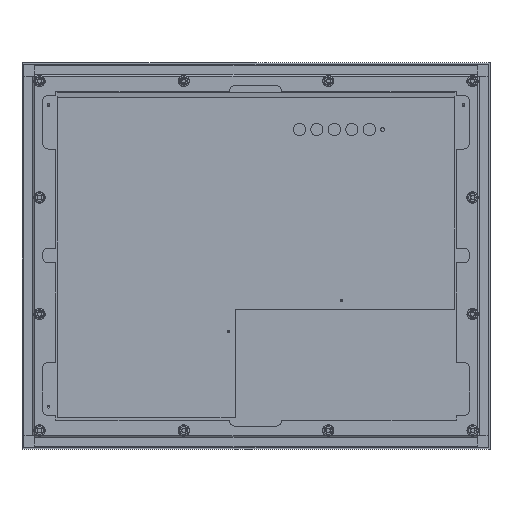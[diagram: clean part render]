
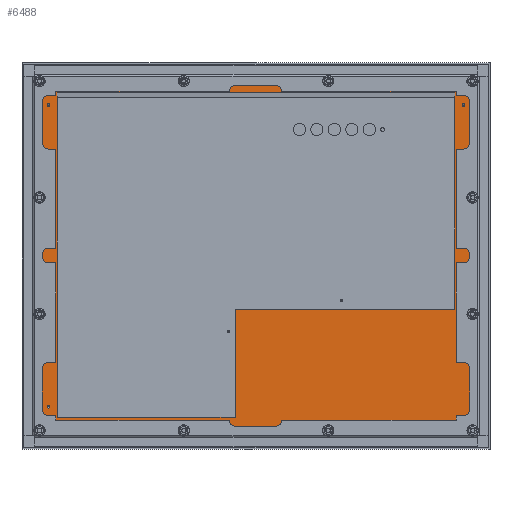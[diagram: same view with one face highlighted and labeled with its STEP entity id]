
A CAD part, top view. The second image highlights one B-rep face of the part: STEP entity #6488.
In plain terms, the highlighted planar face has unit normal (0, 0, 1).
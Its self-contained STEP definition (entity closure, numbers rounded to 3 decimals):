
#1 = VECTOR ( 'NONE', #10787, 1000. ) ;
#123 = VECTOR ( 'NONE', #11717, 1000. ) ;
#238 = DIRECTION ( 'NONE',  ( 1., 0., 0. ) ) ;
#431 = LINE ( 'NONE', #667, #123 ) ;
#436 = CIRCLE ( 'NONE', #9413, 1.353 ) ;
#518 = DIRECTION ( 'NONE',  ( 1., 0., 0. ) ) ;
#667 = CARTESIAN_POINT ( 'NONE',  ( -214.405, -177.688, 24.562 ) ) ;
#889 = DIRECTION ( 'NONE',  ( 1., 0., 0. ) ) ;
#1029 = EDGE_LOOP ( 'NONE', ( #10040, #5486, #11594, #1262, #6960, #4420, #11375, #7985 ) ) ;
#1042 = DIRECTION ( 'NONE',  ( -0.707, -0.707, 0. ) ) ;
#1262 = ORIENTED_EDGE ( 'NONE', *, *, #2586, .T. ) ;
#1320 = EDGE_CURVE ( 'NONE', #4440, #2965, #436, .T. ) ;
#1324 = CARTESIAN_POINT ( 'NONE',  ( -214.405, 177.688, 24.562 ) ) ;
#1632 = DIRECTION ( 'NONE',  ( -0.707, 0.707, 0. ) ) ;
#1703 = VERTEX_POINT ( 'NONE', #2201 ) ;
#1903 = CIRCLE ( 'NONE', #10572, 1.353 ) ;
#2136 = CARTESIAN_POINT ( 'NONE',  ( -214.405, 177.688, 24.562 ) ) ;
#2201 = CARTESIAN_POINT ( 'NONE',  ( -214.405, -177.688, 24.562 ) ) ;
#2216 = CIRCLE ( 'NONE', #4706, 1.353 ) ;
#2241 = EDGE_LOOP ( 'NONE', ( #2561, #2911 ) ) ;
#2258 = DIRECTION ( 'NONE',  ( 0., 0., 1. ) ) ;
#2497 = DIRECTION ( 'NONE',  ( 0., 0., 1. ) ) ;
#2536 = VERTEX_POINT ( 'NONE', #6979 ) ;
#2557 = VERTEX_POINT ( 'NONE', #7014 ) ;
#2561 = ORIENTED_EDGE ( 'NONE', *, *, #9001, .F. ) ;
#2586 = EDGE_CURVE ( 'NONE', #5446, #2557, #4604, .T. ) ;
#2594 = EDGE_CURVE ( 'NONE', #2965, #4440, #11949, .T. ) ;
#2813 = CARTESIAN_POINT ( 'NONE',  ( -213.995, 155.575, 24.562 ) ) ;
#2911 = ORIENTED_EDGE ( 'NONE', *, *, #7497, .F. ) ;
#2912 = LINE ( 'NONE', #2136, #7531 ) ;
#2962 = CARTESIAN_POINT ( 'NONE',  ( -220.817, -171.276, 24.562 ) ) ;
#2965 = VERTEX_POINT ( 'NONE', #5869 ) ;
#2967 = CIRCLE ( 'NONE', #11095, 1.353 ) ;
#2992 = FACE_OUTER_BOUND ( 'NONE', #1029, .T. ) ;
#3389 = CARTESIAN_POINT ( 'NONE',  ( 220.868, -171.276, 24.562 ) ) ;
#3568 = CIRCLE ( 'NONE', #4761, 1.353 ) ;
#3648 = CARTESIAN_POINT ( 'NONE',  ( 214.456, -177.688, 24.562 ) ) ;
#3755 = DIRECTION ( 'NONE',  ( 1., 0., 0. ) ) ;
#3918 = EDGE_CURVE ( 'NONE', #3921, #6865, #1903, .T. ) ;
#3921 = VERTEX_POINT ( 'NONE', #6859 ) ;
#4420 = ORIENTED_EDGE ( 'NONE', *, *, #9839, .T. ) ;
#4440 = VERTEX_POINT ( 'NONE', #10562 ) ;
#4534 = CARTESIAN_POINT ( 'NONE',  ( -220.817, 171.276, 24.562 ) ) ;
#4563 = LINE ( 'NONE', #10126, #9174 ) ;
#4599 = DIRECTION ( 'NONE',  ( 0., 1., 0. ) ) ;
#4604 = LINE ( 'NONE', #3389, #11651 ) ;
#4706 = AXIS2_PLACEMENT_3D ( 'NONE', #11306, #5791, #238 ) ;
#4761 = AXIS2_PLACEMENT_3D ( 'NONE', #2813, #9269, #3755 ) ;
#4780 = CARTESIAN_POINT ( 'NONE',  ( -212.642, -155.575, 24.562 ) ) ;
#4945 = AXIS2_PLACEMENT_3D ( 'NONE', #8005, #2497, #8948 ) ;
#4966 = DIRECTION ( 'NONE',  ( 0., 0., -1. ) ) ;
#5020 = EDGE_CURVE ( 'NONE', #5803, #1703, #431, .T. ) ;
#5068 = CARTESIAN_POINT ( 'NONE',  ( 214.456, -177.688, 24.562 ) ) ;
#5233 = DIRECTION ( 'NONE',  ( 0.707, 0.707, 0. ) ) ;
#5271 = CARTESIAN_POINT ( 'NONE',  ( -220.817, -171.276, 24.562 ) ) ;
#5329 = DIRECTION ( 'NONE',  ( 0., 0., 1. ) ) ;
#5446 = VERTEX_POINT ( 'NONE', #5068 ) ;
#5447 = FACE_BOUND ( 'NONE', #2241, .T. ) ;
#5486 = ORIENTED_EDGE ( 'NONE', *, *, #5020, .T. ) ;
#5524 = CARTESIAN_POINT ( 'NONE',  ( -215.348, 155.575, 24.562 ) ) ;
#5791 = DIRECTION ( 'NONE',  ( 0., 0., 1. ) ) ;
#5803 = VERTEX_POINT ( 'NONE', #2962 ) ;
#5826 = LINE ( 'NONE', #7156, #11305 ) ;
#5869 = CARTESIAN_POINT ( 'NONE',  ( 212.693, 155.575, 24.562 ) ) ;
#6071 = DIRECTION ( 'NONE',  ( 0., 0., 1. ) ) ;
#6159 = VERTEX_POINT ( 'NONE', #4534 ) ;
#6416 = ORIENTED_EDGE ( 'NONE', *, *, #1320, .F. ) ;
#6488 = ADVANCED_FACE ( 'NONE', ( #7897, #10353, #5447, #2992 ), #9559, .F. ) ;
#6690 = EDGE_LOOP ( 'NONE', ( #11960, #9025 ) ) ;
#6859 = CARTESIAN_POINT ( 'NONE',  ( -212.642, 155.575, 24.562 ) ) ;
#6865 = VERTEX_POINT ( 'NONE', #5524 ) ;
#6899 = EDGE_CURVE ( 'NONE', #6865, #3921, #3568, .T. ) ;
#6960 = ORIENTED_EDGE ( 'NONE', *, *, #8331, .T. ) ;
#6966 = EDGE_CURVE ( 'NONE', #9717, #6159, #7884, .T. ) ;
#6979 = CARTESIAN_POINT ( 'NONE',  ( 220.868, 171.276, 24.562 ) ) ;
#6998 = EDGE_LOOP ( 'NONE', ( #6416, #8491 ) ) ;
#7014 = CARTESIAN_POINT ( 'NONE',  ( 220.868, -171.276, 24.562 ) ) ;
#7146 = VECTOR ( 'NONE', #889, 1000. ) ;
#7156 = CARTESIAN_POINT ( 'NONE',  ( 214.456, 177.688, 24.562 ) ) ;
#7497 = EDGE_CURVE ( 'NONE', #11929, #8969, #2967, .T. ) ;
#7531 = VECTOR ( 'NONE', #8590, 1000. ) ;
#7598 = VECTOR ( 'NONE', #1042, 1000. ) ;
#7674 = LINE ( 'NONE', #5271, #1 ) ;
#7736 = EDGE_CURVE ( 'NONE', #1703, #5446, #9595, .T. ) ;
#7791 = CARTESIAN_POINT ( 'NONE',  ( -213.995, 155.575, 24.562 ) ) ;
#7839 = VERTEX_POINT ( 'NONE', #10261 ) ;
#7884 = LINE ( 'NONE', #8412, #7598 ) ;
#7897 = FACE_BOUND ( 'NONE', #6998, .T. ) ;
#7985 = ORIENTED_EDGE ( 'NONE', *, *, #6966, .T. ) ;
#8005 = CARTESIAN_POINT ( 'NONE',  ( 214.046, 155.575, 24.562 ) ) ;
#8331 = EDGE_CURVE ( 'NONE', #2557, #2536, #4563, .T. ) ;
#8412 = CARTESIAN_POINT ( 'NONE',  ( -220.817, 171.276, 24.562 ) ) ;
#8491 = ORIENTED_EDGE ( 'NONE', *, *, #2594, .F. ) ;
#8590 = DIRECTION ( 'NONE',  ( -1., 0., 0. ) ) ;
#8717 = DIRECTION ( 'NONE',  ( 1., 0., 0. ) ) ;
#8948 = DIRECTION ( 'NONE',  ( 1., 0., 0. ) ) ;
#8969 = VERTEX_POINT ( 'NONE', #4780 ) ;
#9001 = EDGE_CURVE ( 'NONE', #8969, #11929, #2216, .T. ) ;
#9025 = ORIENTED_EDGE ( 'NONE', *, *, #6899, .F. ) ;
#9174 = VECTOR ( 'NONE', #4599, 1000. ) ;
#9269 = DIRECTION ( 'NONE',  ( 0., 0., 1. ) ) ;
#9413 = AXIS2_PLACEMENT_3D ( 'NONE', #10836, #5329, #11754 ) ;
#9513 = AXIS2_PLACEMENT_3D ( 'NONE', #10482, #4966, #11409 ) ;
#9559 = PLANE ( 'NONE',  #9513 ) ;
#9595 = LINE ( 'NONE', #3648, #7146 ) ;
#9717 = VERTEX_POINT ( 'NONE', #1324 ) ;
#9839 = EDGE_CURVE ( 'NONE', #2536, #7839, #5826, .T. ) ;
#10040 = ORIENTED_EDGE ( 'NONE', *, *, #10922, .T. ) ;
#10126 = CARTESIAN_POINT ( 'NONE',  ( 220.868, 171.276, 24.562 ) ) ;
#10261 = CARTESIAN_POINT ( 'NONE',  ( 214.456, 177.688, 24.562 ) ) ;
#10353 = FACE_BOUND ( 'NONE', #6690, .T. ) ;
#10482 = CARTESIAN_POINT ( 'NONE',  ( 0., 0., 24.562 ) ) ;
#10562 = CARTESIAN_POINT ( 'NONE',  ( 215.398, 155.575, 24.562 ) ) ;
#10572 = AXIS2_PLACEMENT_3D ( 'NONE', #7791, #2258, #8717 ) ;
#10787 = DIRECTION ( 'NONE',  ( 0., -1., 0. ) ) ;
#10836 = CARTESIAN_POINT ( 'NONE',  ( 214.046, 155.575, 24.562 ) ) ;
#10843 = CARTESIAN_POINT ( 'NONE',  ( -215.348, -155.575, 24.562 ) ) ;
#10922 = EDGE_CURVE ( 'NONE', #6159, #5803, #7674, .T. ) ;
#11095 = AXIS2_PLACEMENT_3D ( 'NONE', #11575, #6071, #518 ) ;
#11305 = VECTOR ( 'NONE', #1632, 1000. ) ;
#11306 = CARTESIAN_POINT ( 'NONE',  ( -213.995, -155.575, 24.562 ) ) ;
#11375 = ORIENTED_EDGE ( 'NONE', *, *, #11762, .T. ) ;
#11409 = DIRECTION ( 'NONE',  ( -1., 0., 0. ) ) ;
#11575 = CARTESIAN_POINT ( 'NONE',  ( -213.995, -155.575, 24.562 ) ) ;
#11594 = ORIENTED_EDGE ( 'NONE', *, *, #7736, .T. ) ;
#11651 = VECTOR ( 'NONE', #5233, 1000. ) ;
#11717 = DIRECTION ( 'NONE',  ( 0.707, -0.707, 0. ) ) ;
#11754 = DIRECTION ( 'NONE',  ( 1., 0., 0. ) ) ;
#11762 = EDGE_CURVE ( 'NONE', #7839, #9717, #2912, .T. ) ;
#11929 = VERTEX_POINT ( 'NONE', #10843 ) ;
#11949 = CIRCLE ( 'NONE', #4945, 1.353 ) ;
#11960 = ORIENTED_EDGE ( 'NONE', *, *, #3918, .F. ) ;
